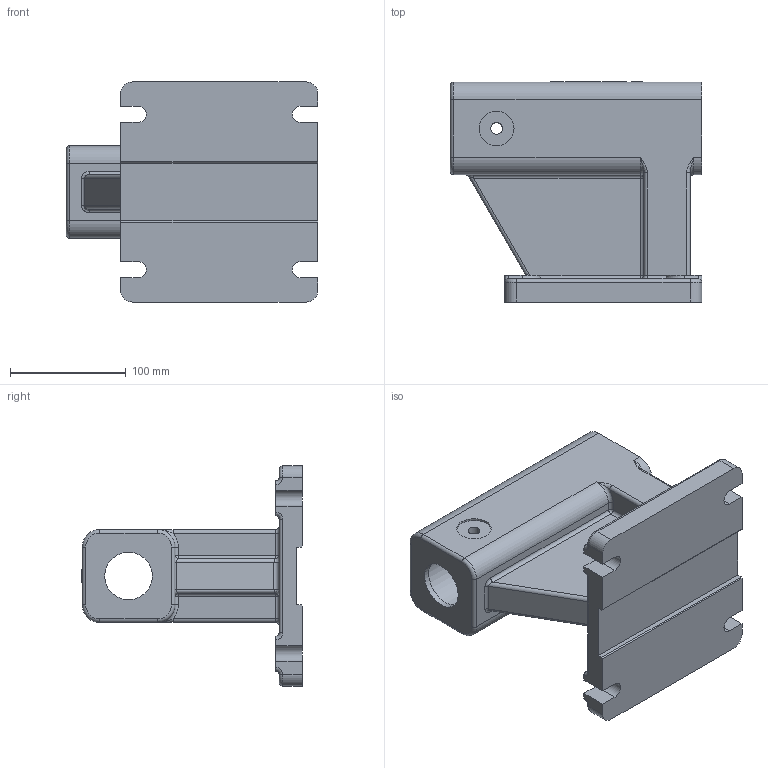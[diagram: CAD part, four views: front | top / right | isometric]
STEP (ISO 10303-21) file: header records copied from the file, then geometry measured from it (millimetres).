
FILE_DESCRIPTION(/* description */ (''),/* implementation_level */ '2;1');
FILE_NAME(/* name */ '',/* time_stamp */ '2024-08-29T13:13:35+09:00',/* author */ ('jhkim'),/* organization */ (''),/* preprocessor_version */ 'ST-DEVELOPER v20',/* originating_system */ 'Autodesk Inventor 2025',/* authorisation */ '');
FILE_SCHEMA (('AUTOMOTIVE_DESIGN { 1 0 10303 214 3 1 1 }'));
Length unit declared in the file: millimetre
Products named in the file (1): 본체
Bounding box: 217 x 190.5 x 190 mm (x, y, z)
Volume: 2098607 mm3; surface area: 220807.6 mm2
Topology: 1 solids, 1 shells, 349 faces, 915 edges, 585 vertices
Faces by surface type: plane 162, bspline 84, cylinder 64, torus 30, cone 5, sphere 4
Full cylindrical faces by diameter (mm): 4.917 x4, 10.106 x3, 30 x3, 41 x1, 52 x1
Entity records: 11335 total; most frequent: CARTESIAN_POINT 3155, ORIENTED_EDGE 1814, DIRECTION 1452, EDGE_CURVE 907, VERTEX_POINT 585, LINE 560, VECTOR 560, AXIS2_PLACEMENT_3D 446
